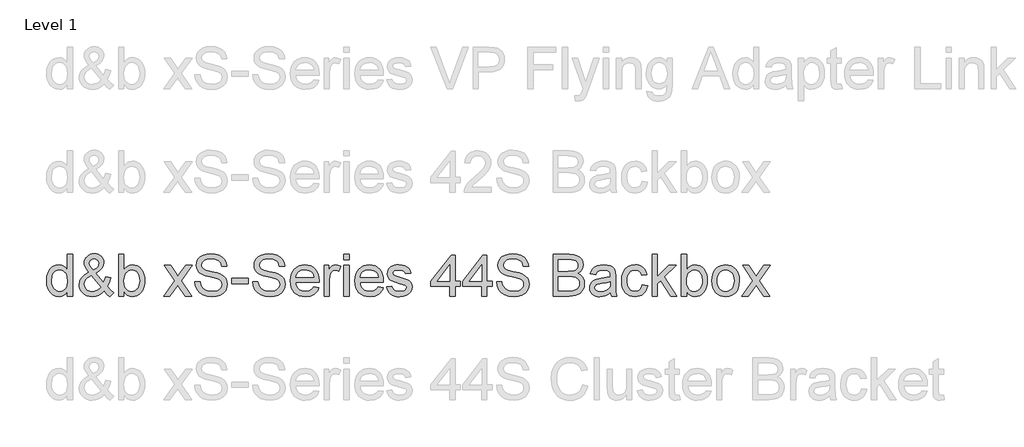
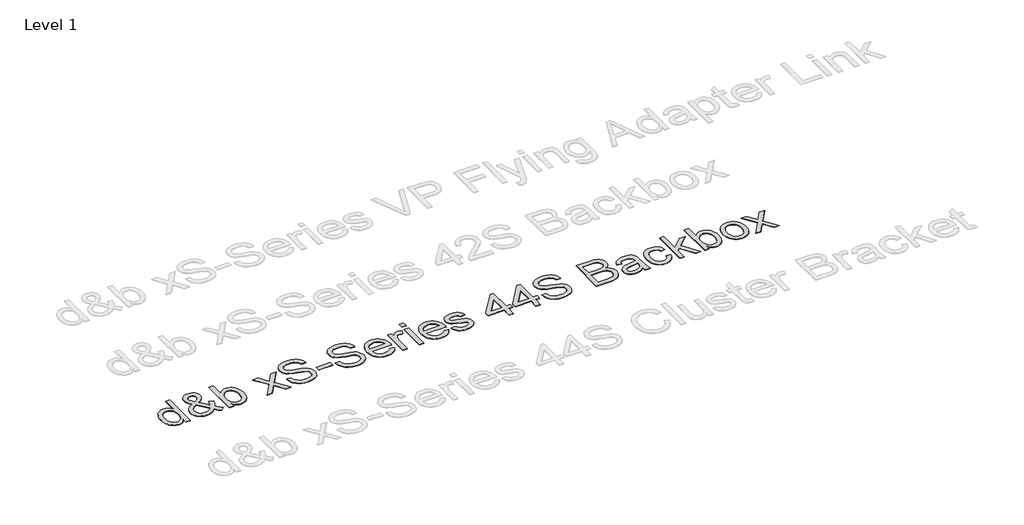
# One storey, part 8 of 55: 1 proxy.
"""IFC4 building model written with IfcOpenShell, lengths in millimetres."""

from ifc_helpers import new_model, si_unit, origin, origin_with_axes, place, context, project, spatial, polyline, outline, extrude, element, save

model = new_model("IFC4")

# Units and contexts
model_context = context("Model", 3, world=origin())
ifc_project = project(units=[si_unit("LENGTHUNIT", "METRE", prefix="MILLI")], contexts=[model_context])

# Site, building, storey
site = spatial("IfcSite", under=ifc_project)
building = spatial("IfcBuilding", under=site)
storey = spatial("IfcBuildingStorey", under=building, Name="Level 1", Elevation=0.0)

# Proxy
placement = place(None, origin())
element("IfcBuildingElementProxy", 1, Name="400mm Arial", ObjectType="400mm Arial", at=placement, inside=storey, context=model_context, shape_type="SweptSolid", body=[
    extrude(outline(polyline([(-20879.8211974, -31148.6945164), (-20879.8211974, -31101.3113154), (-20894.8491769, -31124.7883181), (-20913.0532043, -31141.5576057), (-20934.4332796, -31151.6191783), (-20958.9894028, -31154.9730358), (-20991.4611202, -31150.1169935), (-21021.1859854, -31135.5488665), (-21046.3491139, -31112.2864616), (-21065.1356211, -31081.3475858), (-21076.8342686, -31043.9830379), (-21080.7338177, -31001.4436165), (-21077.1408369, -30959.4314926), (-21066.3618945, -30921.4905962), (-21048.4092531, -30889.7791682), (-21023.2951755, -30866.4554497), (-20992.9203855, -30852.1080519), (-20959.1856065, -30847.325586), (-20934.6110892, -30850.7468885), (-20912.8815261, -30861.0107962), (-20894.4629008, -30876.7438829), (-20879.8211974, -30896.5727224), (-20879.8211974, -30746.8692758), (-20829.5930424, -30746.8692758), (-20829.5930424, -31148.6945164), (-20879.8211974, -31148.6945164)]), holes=[polyline([(-21030.5056627, -31001.2474128), (-21029.089317, -31025.6042665), (-21024.8402799, -31046.6808392), (-21017.7585515, -31064.4771307), (-21007.8441318, -31078.9931411), (-20983.1469871, -31098.3069458), (-20969.2717046, -31103.135397), (-20954.3786151, -31104.7448807), (-20939.415015, -31103.2089734), (-20925.6225058, -31098.6012514), (-20901.5507606, -31080.1703635), (-20892.0440767, -31066.2613584), (-20885.2535882, -31049.1088603), (-20879.8211974, -31005.0733855), (-20885.3516901, -30956.9298951), (-20892.2648059, -30938.3947739), (-20901.9431681, -30923.5507354), (-20913.6448812, -30912.1770504), (-20926.6280499, -30904.0529896), (-20940.8926743, -30899.1785532), (-20956.4387543, -30897.5537411), (-20971.6261493, -30899.1141738), (-20985.5014319, -30903.7954722), (-20998.064602, -30911.5976362), (-21009.3156597, -30922.5206658), (-21018.586286, -30936.8036843), (-21025.2081619, -30954.6858149), (-21030.5056627, -31001.2474128)])]), origin_with_axes(), (0.0, 0.0, 1.0), 5.0),
    extrude(outline(polyline([(-20523.809528, -31099.0549725), (-20549.3405384, -31123.5191252), (-20577.0788409, -31140.99352), (-20607.0734862, -31151.4781569), (-20639.3735254, -31154.9730358), (-20668.6814577, -31152.3855991), (-20694.8010793, -31144.623289), (-20717.7323904, -31131.6861055), (-20737.4753908, -31113.5740486), (-20750.308341, -31096.2038871), (-20759.4747341, -31077.8404442), (-20764.9745699, -31058.4837198), (-20766.8078485, -31038.1337141), (-20760.9094739, -31002.9396699), (-20743.2143499, -30971.3263438), (-20713.796053, -30943.3182613), (-20672.7281596, -30918.9399477), (-20694.6416638, -30890.5885086), (-20707.7995765, -30868.1231814), (-20714.3846642, -30848.9442668), (-20716.5796934, -30830.4520651), (-20714.8506481, -30812.8979626), (-20709.6635119, -30796.5333452), (-20701.018285, -30781.3582129), (-20688.9149674, -30767.3725657), (-20674.1935562, -30755.6555241), (-20657.6940487, -30747.2862088), (-20639.4164449, -30742.2646195), (-20619.3607448, -30740.5907564), (-20600.212487, -30742.1910431), (-20582.8913764, -30746.9919032), (-20567.397413, -30754.9933366), (-20553.7305969, -30766.1953433), (-20542.5715097, -30779.6414302), (-20534.6007332, -30794.3751041), (-20529.8182672, -30810.396365), (-20528.2241119, -30827.7052129), (-20532.9452642, -30855.68877), (-20547.108721, -30881.563137), (-20570.7144823, -30905.3283139), (-20603.7625482, -30926.9843007), (-20531.069066, -31017.5323224), (-20518.6837055, -30991.6579554), (-20509.3885538, -30961.9085647), (-20459.1603987, -30972.7978718), (-20474.6114425, -31019.3226815), (-20494.6732739, -31055.4977443), (-20466.1256311, -31088.8033276), (-20434.0463211, -31116.3209009), (-20471.7174374, -31154.9730358), (-20497.3465498, -31131.52669), (-20523.809528, -31099.0549725)]), holes=[polyline([(-20557.4584678, -31062.8553842), (-20647.1235727, -30950.9211558), (-20681.3733865, -30972.7733463), (-20702.305872, -30993.0068561), (-20713.0112381, -31012.3329235), (-20716.5796934, -31031.4627873), (-20711.6991256, -31055.1543878), (-20697.0574222, -31079.7289051), (-20686.2784798, -31090.6733944), (-20673.4639236, -31098.4908868), (-20658.6137537, -31103.1813823), (-20641.7279702, -31104.7448807), (-20619.0051256, -31101.8263502), (-20595.5710425, -31093.0707588), (-20574.1480476, -31079.6798541), (-20557.4584678, -31062.8553842)]), polyline([(-20629.1709314, -30895.2973981), (-20602.9041569, -30878.6323438), (-20587.8700461, -30864.1500559), (-20580.8067117, -30850.0601755), (-20578.452267, -30834.5723435), (-20581.5547385, -30817.0243723), (-20590.862153, -30803.0325938), (-20604.829406, -30793.8723321), (-20621.9113933, -30790.8189115), (-20639.3612626, -30793.8478066), (-20653.6473468, -30802.9344919), (-20663.1754905, -30816.3867102), (-20666.3515384, -30832.5122043), (-20662.0350563, -30850.9063041), (-20648.9875082, -30871.360543), (-20629.1709314, -30895.2973981)])]), origin_with_axes(), (0.0, 0.0, 1.0), 5.0),
    extrude(outline(polyline([(-20333.590011, -31148.6945164), (-20383.8181661, -31148.6945164), (-20383.8181661, -30746.8692758), (-20333.590011, -30746.8692758), (-20333.590011, -30895.8860093), (-20317.0721094, -30874.6408241), (-20298.4204923, -30859.4656918), (-20277.6351595, -30850.3606124), (-20254.7161112, -30847.325586), (-20228.8417442, -30850.0601755), (-20204.3898543, -30858.263944), (-20182.758393, -30871.4218567), (-20165.3453119, -30889.0188788), (-20151.6968898, -30910.883332), (-20141.3594058, -30936.8435381), (-20134.8478945, -30965.8203766), (-20132.6773907, -30996.734727), (-20134.9245365, -31032.4070178), (-20141.6659741, -31063.7873519), (-20152.9017034, -31090.8757295), (-20168.6317244, -31113.6721505), (-20187.5132678, -31131.7412878), (-20208.2035643, -31144.6478145), (-20230.702614, -31152.3917305), (-20255.0104168, -31154.9730358), (-20278.6836232, -31151.6437038), (-20299.671291, -31141.6557076), (-20317.9734203, -31125.0090473), (-20333.590011, -31101.7037229), (-20333.590011, -31148.6945164)]), holes=[polyline([(-20333.590011, -30999.0891717), (-20330.1564457, -31040.9786682), (-20319.8557498, -31069.3301073), (-20307.6849872, -31084.8240707), (-20293.5399244, -31095.8911874), (-20277.4205617, -31102.5314574), (-20259.3268989, -31104.7448807), (-20244.3050508, -31103.1139372), (-20230.3377977, -31098.2211067), (-20217.4251396, -31090.0663891), (-20205.5670767, -31078.6497845), (-20195.6526569, -31064.0019498), (-20188.5709285, -31046.1535416), (-20184.3218914, -31025.1045601), (-20182.9055458, -31000.8550053), (-20188.3379366, -30954.8942814), (-20195.1284251, -30937.1010555), (-20204.6351089, -30922.7659205), (-20216.0670419, -30911.735592), (-20228.6332778, -30903.8567859), (-20242.3338164, -30899.1295023), (-20257.1686579, -30897.5537411), (-20272.190506, -30899.1846846), (-20286.1577591, -30904.0775151), (-20299.0704171, -30912.2322327), (-20310.9284801, -30923.6488372), (-20320.8428999, -30938.1495192), (-20327.9246283, -30955.556469), (-20332.1736653, -30975.8696865), (-20333.590011, -30999.0891717)])]), origin_with_axes(), (0.0, 0.0, 1.0), 5.0),
    extrude(outline(polyline([(-19950.6003285, -31148.6945164), (-19843.2768878, -31000.2663941), (-19944.3218092, -30853.6041054), (-19884.0872638, -30853.6041054), (-19835.3306367, -30924.3355503), (-19812.4729021, -30957.5920827), (-19792.6563253, -30930.3197641), (-19737.1306695, -30853.6041054), (-19676.6999204, -30853.6041054), (-19782.8461387, -31000.364496), (-19680.623995, -31148.6945164), (-19740.9566422, -31148.6945164), (-19802.5646137, -31059.4218189), (-19813.7482263, -31043.0388074), (-19890.1695795, -31148.6945164), (-19950.6003285, -31148.6945164)])), origin_with_axes(), (0.0, 0.0, 1.0), 5.0),
    extrude(outline(polyline([(-19649.2313981, -31010.56709), (-19599.003243, -31010.56709), (-19593.2397584, -31038.4402825), (-19582.8164352, -31060.844296), (-19566.556051, -31078.6252591), (-19543.2813835, -31092.6293004), (-19514.8318425, -31101.7159856), (-19483.0468381, -31104.7448807), (-19455.063281, -31102.4517496), (-19430.5623402, -31095.5723563), (-19410.7089752, -31084.6830493), (-19396.6681457, -31070.3601769), (-19388.3172244, -31053.9158517), (-19385.533584, -31036.6621862), (-19387.6182486, -31019.849979), (-19393.8722425, -31005.3186402), (-19406.5764341, -30992.9210169), (-19428.0116917, -30982.5099565), (-19501.1466323, -30963.3310418), (-19549.1552327, -30950.639113), (-19579.8733793, -30938.5603208), (-19604.8770922, -30921.6622745), (-19622.5967416, -30901.1835101), (-19633.1549549, -30877.565486), (-19636.6743593, -30851.2496606), (-19632.3210891, -30821.8313637), (-19619.2612782, -30794.3996296), (-19597.8382834, -30771.1494875), (-19568.395461, -30754.2759667), (-19533.054264, -30744.012059), (-19493.9361452, -30740.5907564), (-19451.5561394, -30744.1714745), (-19414.4736342, -30754.9136288), (-19384.013005, -30772.59649), (-19361.4986269, -30796.999329), (-19347.249331, -30826.6015669), (-19341.5839483, -30859.8826247), (-19391.8121033, -30859.8826247), (-19401.0336787, -30829.9125049), (-19409.3968627, -30818.0544419), (-19420.2616443, -30808.2810436), (-19450.3053406, -30795.1844445), (-19491.9741079, -30790.8189115), (-19534.6238939, -30795.1353936), (-19550.9271976, -30800.5309962), (-19563.8827752, -30808.0848398), (-19580.805347, -30827.1411272), (-19586.4462043, -30849.7781326), (-19582.4485532, -30869.0796746), (-19570.4556002, -30884.6042948), (-19542.1041611, -30898.4857088), (-19488.4424407, -30912.6614283), (-19433.0639377, -30926.1259093), (-19399.5621507, -30937.8736077), (-19370.9286687, -30956.0960292), (-19350.9526764, -30978.5858819), (-19339.2172408, -31005.097911), (-19335.3054289, -31035.3868619), (-19339.805852, -31066.3502632), (-19353.3071212, -31095.4742545), (-19375.2574136, -31120.5392811), (-19405.1049061, -31139.3257883), (-19440.9979261, -31151.0612239), (-19481.0848008, -31154.9730358), (-19530.2951491, -31150.7546556), (-19570.7989567, -31138.099515), (-19603.0622077, -31116.958563), (-19627.5508858, -31087.2827487), (-19643.2717098, -31051.1322113), (-19649.2313981, -31010.56709)])), origin_with_axes(), (0.0, 0.0, 1.0), 5.0),
    extrude(outline(polyline([(-19291.3557932, -31029.4026481), (-19291.3557932, -30979.174493), (-19134.3928086, -30979.174493), (-19134.3928086, -31029.4026481), (-19291.3557932, -31029.4026481)])), origin_with_axes(), (0.0, 0.0, 1.0), 5.0),
    extrude(outline(polyline([(-19090.4431729, -31010.56709), (-19040.2150178, -31010.56709), (-19034.4515332, -31038.4402825), (-19024.02821, -31060.844296), (-19007.7678258, -31078.6252591), (-18984.4931583, -31092.6293004), (-18956.0436173, -31101.7159856), (-18924.2586129, -31104.7448807), (-18896.2750558, -31102.4517496), (-18871.774115, -31095.5723563), (-18851.9207499, -31084.6830493), (-18837.8799205, -31070.3601769), (-18829.5289992, -31053.9158517), (-18826.7453587, -31036.6621862), (-18828.8300234, -31019.849979), (-18835.0840173, -31005.3186402), (-18847.7882089, -30992.9210169), (-18869.2234665, -30982.5099565), (-18942.3584071, -30963.3310418), (-18990.3670075, -30950.639113), (-19021.0851541, -30938.5603208), (-19046.088867, -30921.6622745), (-19063.8085164, -30901.1835101), (-19074.3667297, -30877.565486), (-19077.8861341, -30851.2496606), (-19073.5328638, -30821.8313637), (-19060.473053, -30794.3996296), (-19039.0500582, -30771.1494875), (-19009.6072358, -30754.2759667), (-18974.2660388, -30744.012059), (-18935.14792, -30740.5907564), (-18892.7679141, -30744.1714745), (-18855.685409, -30754.9136288), (-18825.2247798, -30772.59649), (-18802.7104017, -30796.999329), (-18788.4611058, -30826.6015669), (-18782.7957231, -30859.8826247), (-18833.0238781, -30859.8826247), (-18842.2454535, -30829.9125049), (-18850.6086375, -30818.0544419), (-18861.4734191, -30808.2810436), (-18891.5171154, -30795.1844445), (-18933.1858827, -30790.8189115), (-18975.8356687, -30795.1353936), (-18992.1389724, -30800.5309962), (-19005.09455, -30808.0848398), (-19022.0171218, -30827.1411272), (-19027.657979, -30849.7781326), (-19023.660328, -30869.0796746), (-19011.667375, -30884.6042948), (-18983.3159359, -30898.4857088), (-18929.6542155, -30912.6614283), (-18874.2757125, -30926.1259093), (-18840.7739255, -30937.8736077), (-18812.1404435, -30956.0960292), (-18792.1644512, -30978.5858819), (-18780.4290156, -31005.097911), (-18776.5172037, -31035.3868619), (-18781.0176267, -31066.3502632), (-18794.518896, -31095.4742545), (-18816.4691883, -31120.5392811), (-18846.3166809, -31139.3257883), (-18882.2097009, -31151.0612239), (-18922.2965756, -31154.9730358), (-18971.5069238, -31150.7546556), (-19012.0107315, -31138.099515), (-19044.2739825, -31116.958563), (-19068.7626606, -31087.2827487), (-19084.4834846, -31051.1322113), (-19090.4431729, -31010.56709)])), origin_with_axes(), (0.0, 0.0, 1.0), 5.0),
    extrude(outline(polyline([(-18500.850962, -31060.795245), (-18451.6038255, -31067.0737644), (-18459.1546035, -31086.7983707), (-18469.3480004, -31104.180795), (-18482.1840164, -31119.2210372), (-18497.6626513, -31131.9190974), (-18515.6244897, -31142.0051955), (-18535.9101161, -31149.2095512), (-18583.4527326, -31154.9730358), (-18614.618469, -31152.4867667), (-18642.3874282, -31145.0279592), (-18666.7596104, -31132.5966135), (-18687.7350155, -31115.1927294), (-18704.602405, -31093.300685), (-18716.6505403, -31067.4048582), (-18723.8794215, -31037.5052491), (-18726.2890486, -31003.6018575), (-18723.8548961, -30968.5488348), (-18716.5524385, -30937.6528785), (-18704.3816758, -30910.9139888), (-18687.342608, -30888.3321657), (-18666.4223852, -30870.3917871), (-18642.6081574, -30857.5772309), (-18615.8999246, -30849.8884972), (-18586.2976867, -30847.325586), (-18557.6488763, -30849.8823658), (-18531.7407868, -30857.5527054), (-18508.5734182, -30870.3366048), (-18488.1467704, -30888.2340638), (-18471.472519, -30910.766836), (-18459.5623394, -30937.4566748), (-18452.4162316, -30968.3035801), (-18450.0341957, -31003.3075519), (-18450.3285013, -31016.8456094), (-18676.0608935, -31016.8456094), (-18673.1515601, -31036.8890467), (-18667.3666157, -31054.4431493), (-18658.7060604, -31069.507917), (-18647.1698942, -31082.0833498), (-18633.3957791, -31091.9977696), (-18618.0213774, -31099.079498), (-18582.4717139, -31104.7448807), (-18555.7389556, -31102.1206558), (-18533.2245775, -31094.2479811), (-18514.9285796, -31080.6363473), (-18500.850962, -31060.795245)]), holes=[polyline([(-18676.0608935, -30966.6174543), (-18500.2623508, -30966.6174543), (-18507.0559049, -30940.0808997), (-18520.3732332, -30921.0981887), (-18534.0707061, -30910.7974929), (-18549.65664, -30903.439853), (-18567.1310348, -30899.025269), (-18586.4938904, -30897.5537411), (-18620.3512967, -30902.2503679), (-18648.3471166, -30916.3402483), (-18667.8080741, -30938.3028034), (-18676.0608935, -30966.6174543)])]), origin_with_axes(), (0.0, 0.0, 1.0), 5.0),
    extrude(outline(polyline([(-18399.8060406, -31148.6945164), (-18399.8060406, -30853.6041054), (-18355.8564049, -30853.6041054), (-18355.8564049, -30897.2594355), (-18339.6205462, -30871.9491542), (-18324.6600117, -30857.0376707), (-18309.6504263, -30849.7536071), (-18293.2674148, -30847.325586), (-18268.2514391, -30851.2006097), (-18242.843056, -30862.8256807), (-18259.618475, -30907.8544369), (-18277.2768108, -30900.128915), (-18294.9351465, -30897.5537411), (-18309.9324692, -30900.0308132), (-18323.3356365, -30907.4620295), (-18334.1636299, -30919.2833042), (-18341.4354307, -30934.9305518), (-18347.5422718, -30962.9876853), (-18349.5778855, -30993.5954673), (-18349.5778855, -31148.6945164), (-18399.8060406, -31148.6945164)])), origin_with_axes(), (0.0, 0.0, 1.0), 5.0),
    extrude(outline(polyline([(-18211.4504591, -30797.0974309), (-18211.4504591, -30746.8692758), (-18161.222304, -30746.8692758), (-18161.222304, -30797.0974309), (-18211.4504591, -30797.0974309)])), origin_with_axes(), (0.0, 0.0, 1.0), 5.0),
    extrude(outline(polyline([(-18211.4504591, -31148.6945164), (-18211.4504591, -30853.6041054), (-18161.222304, -30853.6041054), (-18161.222304, -31148.6945164), (-18211.4504591, -31148.6945164)])), origin_with_axes(), (0.0, 0.0, 1.0), 5.0),
    extrude(outline(polyline([(-17879.2775429, -31060.795245), (-17830.0304065, -31067.0737644), (-17837.5811844, -31086.7983707), (-17847.7745814, -31104.180795), (-17860.6105973, -31119.2210372), (-17876.0892323, -31131.9190974), (-17894.0510707, -31142.0051955), (-17914.336697, -31149.2095512), (-17961.8793136, -31154.9730358), (-17993.0450499, -31152.4867667), (-18020.8140092, -31145.0279592), (-18045.1861914, -31132.5966135), (-18066.1615965, -31115.1927294), (-18083.0289859, -31093.300685), (-18095.0771213, -31067.4048582), (-18102.3060025, -31037.5052491), (-18104.7156295, -31003.6018575), (-18102.281477, -30968.5488348), (-18094.9790194, -30937.6528785), (-18082.8082567, -30910.9139888), (-18065.769189, -30888.3321657), (-18044.8489662, -30870.3917871), (-18021.0347384, -30857.5772309), (-17994.3265055, -30849.8884972), (-17964.7242676, -30847.325586), (-17936.0754573, -30849.8823658), (-17910.1673678, -30857.5527054), (-17886.9999991, -30870.3366048), (-17866.5733513, -30888.2340638), (-17849.8990999, -30910.766836), (-17837.9889203, -30937.4566748), (-17830.8428126, -30968.3035801), (-17828.4607766, -31003.3075519), (-17828.7550822, -31016.8456094), (-18054.4874745, -31016.8456094), (-18051.578141, -31036.8890467), (-18045.7931967, -31054.4431493), (-18037.1326413, -31069.507917), (-18025.5964751, -31082.0833498), (-18011.8223601, -31091.9977696), (-17996.4479584, -31099.079498), (-17960.8982949, -31104.7448807), (-17934.1655366, -31102.1206558), (-17911.6511585, -31094.2479811), (-17893.3551606, -31080.6363473), (-17879.2775429, -31060.795245)]), holes=[polyline([(-18054.4874745, -30966.6174543), (-17878.6889317, -30966.6174543), (-17885.4824859, -30940.0808997), (-17898.7998141, -30921.0981887), (-17912.4972871, -30910.7974929), (-17928.0832209, -30903.439853), (-17945.5576157, -30899.025269), (-17964.9204714, -30897.5537411), (-17998.7778777, -30902.2503679), (-18026.7736975, -30916.3402483), (-18046.234655, -30938.3028034), (-18054.4874745, -30966.6174543)])]), origin_with_axes(), (0.0, 0.0, 1.0), 5.0),
    extrude(outline(polyline([(-17797.0681797, -31060.795245), (-17746.8400246, -31054.5167257), (-17738.918299, -31076.0010342), (-17723.5898825, -31091.7954345), (-17700.7566734, -31101.5075192), (-17670.3205696, -31104.7448807), (-17640.2523479, -31101.7772993), (-17619.1113959, -31092.874555), (-17606.6034081, -31079.9741597), (-17602.4340788, -31065.0136253), (-17606.6279335, -31052.2113318), (-17619.2094978, -31042.4501962), (-17670.9091808, -31028.1273239), (-17746.545719, -31003.5528066), (-17765.6878455, -30991.2042343), (-17779.5569967, -30974.858011), (-17787.9814944, -30955.556469), (-17790.7896603, -30934.3419406), (-17788.5333174, -30914.880983), (-17781.7642887, -30896.9160789), (-17771.0957109, -30881.1584668), (-17757.1407205, -30868.3193852), (-17725.2085633, -30853.4569526), (-17704.3251287, -30848.8584276), (-17681.9946916, -30847.325586), (-17649.302245, -30849.7903953), (-17620.8772295, -30857.1848234), (-17598.0194949, -30868.785369), (-17582.0288908, -30883.8685308), (-17571.4338893, -30903.5502176), (-17564.7629625, -30928.946338), (-17614.9911176, -30935.2248574), (-17621.3309506, -30919.4181943), (-17633.8757267, -30907.5110804), (-17652.748073, -30900.0430759), (-17678.070617, -30897.5537411), (-17706.9125654, -30899.9327113), (-17726.140531, -30907.069622), (-17736.9562617, -30917.3703179), (-17740.5615053, -30929.2406436), (-17734.5772915, -30943.8578215), (-17715.8398352, -30954.9433323), (-17672.5769125, -30965.6364356), (-17598.8533607, -30989.2789852), (-17579.3801404, -31000.5852252), (-17564.6158097, -31016.0607944), (-17555.3083952, -31035.7547439), (-17552.2059237, -31059.7161245), (-17555.8479555, -31084.4868455), (-17566.7740507, -31107.7860386), (-17584.5672766, -31127.7865564), (-17608.8107, -31142.6612517), (-17638.0941069, -31151.8950898), (-17671.0072827, -31154.9730358), (-17698.040478, -31153.4892451), (-17721.6523707, -31149.037873), (-17741.8429609, -31141.6189194), (-17758.6122485, -31131.2323844), (-17772.3097214, -31117.9273189), (-17783.2848676, -31101.7527738), (-17791.5376871, -31082.7087492), (-17797.0681797, -31060.795245)])), origin_with_axes(), (0.0, 0.0, 1.0), 5.0),
    extrude(outline(polyline([(-17188.0517994, -31148.6945164), (-17188.0517994, -31054.5167257), (-17370.1288616, -31054.5167257), (-17370.1288616, -31004.2885706), (-17175.4947607, -30753.1477952), (-17137.8236444, -30753.1477952), (-17137.8236444, -31004.2885706), (-17087.5954893, -31004.2885706), (-17087.5954893, -31054.5167257), (-17137.8236444, -31054.5167257), (-17137.8236444, -31148.6945164), (-17188.0517994, -31148.6945164)]), holes=[polyline([(-17188.0517994, -31004.2885706), (-17188.0517994, -30849.0914196), (-17308.3246864, -31004.2885706), (-17188.0517994, -31004.2885706)])]), origin_with_axes(), (0.0, 0.0, 1.0), 5.0),
    extrude(outline(polyline([(-16880.4043496, -31148.6945164), (-16880.4043496, -31054.5167257), (-17062.4814117, -31054.5167257), (-17062.4814117, -31004.2885706), (-16867.8473108, -30753.1477952), (-16830.1761945, -30753.1477952), (-16830.1761945, -31004.2885706), (-16779.9480394, -31004.2885706), (-16779.9480394, -31054.5167257), (-16830.1761945, -31054.5167257), (-16830.1761945, -31148.6945164), (-16880.4043496, -31148.6945164)]), holes=[polyline([(-16880.4043496, -31004.2885706), (-16880.4043496, -30849.0914196), (-17000.6772366, -31004.2885706), (-16880.4043496, -31004.2885706)])]), origin_with_axes(), (0.0, 0.0, 1.0), 5.0),
    extrude(outline(polyline([(-16735.9984038, -31010.56709), (-16685.7702487, -31010.56709), (-16680.0067641, -31038.4402825), (-16669.5834409, -31060.844296), (-16653.3230567, -31078.6252591), (-16630.0483891, -31092.6293004), (-16601.5988482, -31101.7159856), (-16569.8138438, -31104.7448807), (-16541.8302867, -31102.4517496), (-16517.3293458, -31095.5723563), (-16497.4759808, -31084.6830493), (-16483.4351513, -31070.3601769), (-16475.08423, -31053.9158517), (-16472.3005896, -31036.6621862), (-16474.3852543, -31019.849979), (-16480.6392482, -31005.3186402), (-16493.3434397, -30992.9210169), (-16514.7786973, -30982.5099565), (-16587.913638, -30963.3310418), (-16635.9222383, -30950.639113), (-16666.6403849, -30938.5603208), (-16691.6440979, -30921.6622745), (-16709.3637473, -30901.1835101), (-16719.9219606, -30877.565486), (-16723.441365, -30851.2496606), (-16719.0880947, -30821.8313637), (-16706.0282839, -30794.3996296), (-16684.605289, -30771.1494875), (-16655.1624667, -30754.2759667), (-16619.8212697, -30744.012059), (-16580.7031509, -30740.5907564), (-16538.323145, -30744.1714745), (-16501.2406399, -30754.9136288), (-16470.7800107, -30772.59649), (-16448.2656326, -30796.999329), (-16434.0163367, -30826.6015669), (-16428.3509539, -30859.8826247), (-16478.579109, -30859.8826247), (-16487.8006843, -30829.9125049), (-16496.1638684, -30818.0544419), (-16507.02865, -30808.2810436), (-16537.0723462, -30795.1844445), (-16578.7411136, -30790.8189115), (-16621.3908995, -30795.1353936), (-16637.6942033, -30800.5309962), (-16650.6497809, -30808.0848398), (-16667.5723527, -30827.1411272), (-16673.2132099, -30849.7781326), (-16669.2155589, -30869.0796746), (-16657.2226059, -30884.6042948), (-16628.8711668, -30898.4857088), (-16575.2094464, -30912.6614283), (-16519.8309434, -30926.1259093), (-16486.3291564, -30937.8736077), (-16457.6956744, -30956.0960292), (-16437.7196821, -30978.5858819), (-16425.9842464, -31005.097911), (-16422.0724345, -31035.3868619), (-16426.5728576, -31066.3502632), (-16440.0741268, -31095.4742545), (-16462.0244192, -31120.5392811), (-16491.8719118, -31139.3257883), (-16527.7649318, -31151.0612239), (-16567.8518065, -31154.9730358), (-16617.0621547, -31150.7546556), (-16657.5659624, -31138.099515), (-16689.8292134, -31116.958563), (-16714.3178915, -31087.2827487), (-16730.0387154, -31051.1322113), (-16735.9984038, -31010.56709)])), origin_with_axes(), (0.0, 0.0, 1.0), 5.0),
    extrude(outline(polyline([(-16189.7672173, -31148.6945164), (-16189.7672173, -30746.8692758), (-16036.4340017, -30746.8692758), (-15994.2624623, -30749.8245945), (-15961.3370238, -30758.6905506), (-15936.1003189, -30773.6878733), (-15916.9949806, -30795.0372917), (-15904.9652394, -30820.1513693), (-15900.9553256, -30846.4426692), (-15904.3275773, -30870.6370417), (-15914.4443321, -30893.3844118), (-15931.3791666, -30913.2868277), (-15955.2056572, -30928.946338), (-15926.7438535, -30943.8087706), (-15905.7132661, -30966.4212506), (-15892.7270317, -30995.2877244), (-15888.3982869, -31028.9121388), (-15891.3536056, -31056.9324841), (-15900.2195616, -31082.9172157), (-15913.4510507, -31105.0146609), (-15929.5029685, -31121.3731469), (-15949.1601297, -31133.2189472), (-15973.2073495, -31141.7783349), (-16002.4294426, -31146.965471), (-16037.6112241, -31148.6945164), (-16189.7672173, -31148.6945164)]), holes=[polyline([(-16139.5390622, -31098.4663614), (-16036.5321036, -31098.4663614), (-15999.2533948, -31096.504324), (-15967.713645, -31085.5659661), (-15956.1376249, -31076.1359242), (-15946.8179477, -31063.2477917), (-15940.6743184, -31047.4779168), (-15938.6264419, -31029.4026481), (-15941.0299376, -31008.4088489), (-15948.2404248, -30990.3581057), (-15960.8342517, -30976.2436998), (-15979.387767, -30967.0589127), (-16005.6668042, -30962.0189293), (-16041.4371969, -30960.3389349), (-16139.5390622, -30960.3389349), (-16139.5390622, -31098.4663614)]), polyline([(-16139.5390622, -30910.1107798), (-16047.8138181, -30910.1107798), (-15994.2501996, -30905.7942977), (-15975.5004806, -30898.3508187), (-15962.0237368, -30887.2039943), (-15953.8935447, -30872.5255026), (-15951.1834807, -30854.4870222), (-15953.7096037, -30836.9758392), (-15961.2879728, -30821.7209991), (-15973.5752315, -30809.8138852), (-15990.2280231, -30802.3458807), (-16015.7835591, -30798.4095434), (-16054.7790506, -30797.0974309), (-16139.5390622, -30797.0974309), (-16139.5390622, -30910.1107798)])]), origin_with_axes(), (0.0, 0.0, 1.0), 5.0),
    extrude(outline(polyline([(-15637.2575115, -31111.0234001), (-15661.2556803, -31131.6002664), (-15685.9650877, -31145.0647474), (-15711.9498193, -31152.4959637), (-15739.7739608, -31154.9730358), (-15762.1381204, -31153.4831137), (-15781.7492965, -31149.0133475), (-15798.6074889, -31141.5637371), (-15812.7126977, -31131.1342825), (-15823.8503251, -31118.3871714), (-15831.8057733, -31103.9845913), (-15836.5790422, -31087.9265422), (-15838.1701318, -31070.2130241), (-15835.7666361, -31049.3909032), (-15828.556149, -31030.4817686), (-15817.43385, -31014.2949609), (-15803.2949187, -31001.6398202), (-15786.6789152, -30992.0748883), (-15768.1253999, -30985.1587068), (-15724.6662736, -30977.6048632), (-15673.309947, -30969.6586121), (-15637.5518171, -30960.3389349), (-15637.2575115, -30949.1553222), (-15640.7156023, -30926.739046), (-15651.0898745, -30912.0728171), (-15674.2909657, -30901.1835101), (-15706.6155303, -30897.5537411), (-15736.5365993, -30899.9694995), (-15757.4322966, -30907.2167748), (-15771.6815925, -30920.6199422), (-15781.6634573, -30941.5033767), (-15831.8916124, -30935.2248574), (-15823.1728091, -30907.7563351), (-15810.1620492, -30886.1739247), (-15791.6453221, -30869.6682858), (-15766.4086173, -30857.4300781), (-15735.5433179, -30849.851709), (-15700.1408072, -30847.325586), (-15666.1852991, -30849.5574034), (-15639.2685997, -30856.2528557), (-15618.9737763, -30866.3205597), (-15604.8838959, -30878.669132), (-15595.5396932, -30893.9362348), (-15589.4819031, -30912.7595302), (-15587.0293564, -30956.7091659), (-15587.0293564, -31019.2000541), (-15584.4787079, -31106.4616634), (-15574.4723177, -31148.6945164), (-15624.7004727, -31148.6945164), (-15632.7448257, -31131.2323844), (-15637.2575115, -31111.0234001)]), holes=[polyline([(-15637.2575115, -31010.56709), (-15671.0045532, -31018.930274), (-15718.2896523, -31025.9690828), (-15761.503524, -31034.1115377), (-15772.7484503, -31039.6788185), (-15781.0748461, -31047.3552895), (-15786.2251941, -31056.5523394), (-15787.9419767, -31066.681357), (-15784.2018431, -31081.617366), (-15772.9814423, -31093.8555737), (-15754.5260288, -31102.022554), (-15729.0808575, -31104.7448807), (-15702.1028445, -31101.7405111), (-15678.2640912, -31092.7274022), (-15658.9380237, -31079.4468622), (-15645.4980682, -31063.6401991), (-15639.5383799, -31047.3552895), (-15637.5518171, -31024.7918605), (-15637.2575115, -31010.56709)])]), origin_with_axes(), (0.0, 0.0, 1.0), 5.0),
    extrude(outline(polyline([(-15329.6100617, -31041.9596869), (-15279.3819066, -31048.2382063), (-15284.8449542, -31071.9390038), (-15293.3859479, -31092.9113432), (-15305.0048876, -31111.1552245), (-15319.7017733, -31126.6706476), (-15336.857337, -31139.0529425), (-15355.8523107, -31147.8974388), (-15376.6866943, -31153.2041366), (-15399.3604879, -31154.9730358), (-15427.5310517, -31152.5051608), (-15452.7892164, -31145.1015356), (-15475.1349819, -31132.7621604), (-15494.5683483, -31115.487035), (-15510.2983693, -31093.601122), (-15521.5340985, -31067.4293837), (-15528.2755361, -31036.9718202), (-15530.522682, -31002.2284314), (-15526.6844465, -30957.530769), (-15515.16974, -30918.7927949), (-15495.7946216, -30887.5105626), (-15468.3751502, -30865.1801255), (-15435.572339, -30851.7892209), (-15400.047201, -30847.325586), (-15377.7627491, -30848.8584276), (-15357.6058815, -30853.4569526), (-15339.576598, -30861.1211608), (-15323.6748988, -30871.8510523), (-15310.1705639, -30885.4013725), (-15299.3333735, -30901.5268666), (-15291.1633275, -30920.2275347), (-15285.660426, -30941.5033767), (-15335.888581, -30947.7818961), (-15344.9997918, -30925.8683919), (-15359.1877741, -30910.1598308), (-15377.667713, -30900.7052635), (-15399.6547935, -30897.5537411), (-15416.7214524, -30899.1049768), (-15432.1142483, -30903.758684), (-15445.833181, -30911.5148628), (-15457.8782506, -30922.373513), (-15467.6853715, -30936.5860207), (-15474.6904578, -30954.403772), (-15478.8935096, -30975.8267669), (-15480.2945269, -31000.8550053), (-15474.8130852, -31047.9316379), (-15467.961283, -31065.8689509), (-15458.36876, -31080.0722616), (-15446.5628136, -31090.8665325), (-15433.0707414, -31098.576726), (-15417.8925435, -31103.202842), (-15401.0282197, -31104.7448807), (-15375.0189626, -31100.8943825), (-15353.6940696, -31089.3428879), (-15338.1817122, -31069.7960912), (-15329.6100617, -31041.9596869)])), origin_with_axes(), (0.0, 0.0, 1.0), 5.0),
    extrude(outline(polyline([(-15235.4322709, -31148.6945164), (-15235.4322709, -30746.8692758), (-15185.2041158, -30746.8692758), (-15185.2041158, -30962.7914815), (-15072.5831744, -30853.6041054), (-15003.1270537, -30853.6041054), (-15117.2195231, -30964.1649076), (-14996.8485343, -31148.6945164), (-15055.5134498, -31148.6945164), (-15153.2229077, -30999.0891717), (-15185.2041158, -31030.187463), (-15185.2041158, -31148.6945164), (-15235.4322709, -31148.6945164)])), origin_with_axes(), (0.0, 0.0, 1.0), 5.0),
    extrude(outline(polyline([(-14902.6707435, -31148.6945164), (-14952.8988986, -31148.6945164), (-14952.8988986, -30746.8692758), (-14902.6707435, -30746.8692758), (-14902.6707435, -30895.8860093), (-14886.1528419, -30874.6408241), (-14867.5012248, -30859.4656918), (-14846.7158921, -30850.3606124), (-14823.7968438, -30847.325586), (-14797.9224768, -30850.0601755), (-14773.4705868, -30858.263944), (-14751.8391255, -30871.4218567), (-14734.4260444, -30889.0188788), (-14720.7776224, -30910.883332), (-14710.4401383, -30936.8435381), (-14703.928627, -30965.8203766), (-14701.7581232, -30996.734727), (-14704.0052691, -31032.4070178), (-14710.7467066, -31063.7873519), (-14721.9824359, -31090.8757295), (-14737.7124569, -31113.6721505), (-14756.5940003, -31131.7412878), (-14777.2842968, -31144.6478145), (-14799.7833465, -31152.3917305), (-14824.0911494, -31154.9730358), (-14847.7643557, -31151.6437038), (-14868.7520236, -31141.6557076), (-14887.0541528, -31125.0090473), (-14902.6707435, -31101.7037229), (-14902.6707435, -31148.6945164)]), holes=[polyline([(-14902.6707435, -30999.0891717), (-14899.2371782, -31040.9786682), (-14888.9364824, -31069.3301073), (-14876.7657197, -31084.8240707), (-14862.620657, -31095.8911874), (-14846.5012942, -31102.5314574), (-14828.4076314, -31104.7448807), (-14813.3857833, -31103.1139372), (-14799.4185302, -31098.2211067), (-14786.5058722, -31090.0663891), (-14774.6478092, -31078.6497845), (-14764.7333894, -31064.0019498), (-14757.651661, -31046.1535416), (-14753.402624, -31025.1045601), (-14751.9862783, -31000.8550053), (-14757.4186691, -30954.8942814), (-14764.2091576, -30937.1010555), (-14773.7158415, -30922.7659205), (-14785.1477745, -30911.735592), (-14797.7140103, -30903.8567859), (-14811.4145489, -30899.1295023), (-14826.2493904, -30897.5537411), (-14841.2712385, -30899.1846846), (-14855.2384916, -30904.0775151), (-14868.1511496, -30912.2322327), (-14880.0092126, -30923.6488372), (-14889.9236324, -30938.1495192), (-14897.0053608, -30955.556469), (-14901.2543978, -30975.8696865), (-14902.6707435, -30999.0891717)])]), origin_with_axes(), (0.0, 0.0, 1.0), 5.0),
    extrude(outline(polyline([(-14657.8084875, -31001.1493109), (-14655.0922921, -30962.932503), (-14646.9437059, -30930.000933), (-14633.362729, -30902.3546011), (-14614.3493612, -30879.9935072), (-14595.2072347, -30865.7012916), (-14574.0785454, -30855.4925663), (-14550.9632934, -30849.3673311), (-14525.8614786, -30847.325586), (-14498.1507673, -30849.8118551), (-14473.0949378, -30857.2706626), (-14450.6939899, -30869.7020083), (-14430.9479238, -30887.1058924), (-14414.8316268, -30908.8937036), (-14403.319986, -30934.4768306), (-14396.4130015, -30963.8552736), (-14394.1106734, -30997.0290325), (-14398.1819008, -31047.7722224), (-14410.395583, -31086.3998319), (-14430.3961009, -31115.3276195), (-14457.827835, -31136.9713435), (-14490.409917, -31150.4726127), (-14525.8614786, -31154.9730358), (-14553.9768601, -31152.4959637), (-14579.2656816, -31145.0647474), (-14601.7279431, -31132.6793869), (-14621.3636445, -31115.3398822), (-14637.3082634, -31093.3405389), (-14648.6972768, -31066.9756626), (-14655.5306849, -31036.2452532), (-14657.8084875, -31001.1493109)]), holes=[polyline([(-14607.5803325, -31001.051209), (-14606.1271986, -31025.4141942), (-14601.7677969, -31046.5091609), (-14594.5021275, -31064.3361092), (-14584.3301904, -31078.8950392), (-14571.9570926, -31090.2043449), (-14558.0879414, -31098.2824204), (-14542.7227367, -31103.1292656), (-14525.8614786, -31104.7448807), (-14509.0860596, -31103.1200686), (-14493.7821686, -31098.2456322), (-14479.9498056, -31090.1215714), (-14467.5889706, -31078.7478864), (-14457.4170334, -31064.0448693), (-14450.151364, -31045.9328124), (-14445.7919624, -31024.4117157), (-14444.3388285, -30999.4815792), (-14445.8011594, -30975.8911462), (-14450.1881522, -30955.3480025), (-14457.4998068, -30937.8521479), (-14467.7361234, -30923.4035826), (-14480.1429437, -30912.0942769), (-14493.9661096, -30904.0162014), (-14509.2056213, -30899.1693561), (-14525.8614786, -30897.5537411), (-14542.7227367, -30899.1632248), (-14558.0879414, -30903.991676), (-14571.9570926, -30912.0390946), (-14584.3301904, -30923.3054807), (-14594.5021275, -30937.8214911), (-14601.7677969, -30955.6177826), (-14606.1271986, -30976.6943553), (-14607.5803325, -31001.051209)])]), origin_with_axes(), (0.0, 0.0, 1.0), 5.0),
    extrude(outline(polyline([(-14368.9965959, -31148.6945164), (-14261.6731551, -31000.2663941), (-14362.7180765, -30853.6041054), (-14302.4835311, -30853.6041054), (-14253.726904, -30924.3355503), (-14230.8691694, -30957.5920827), (-14211.0525926, -30930.3197641), (-14155.5269368, -30853.6041054), (-14095.0961877, -30853.6041054), (-14201.2424061, -31000.364496), (-14099.0202623, -31148.6945164), (-14159.3529095, -31148.6945164), (-14220.960881, -31059.4218189), (-14232.1444937, -31043.0388074), (-14308.5658468, -31148.6945164), (-14368.9965959, -31148.6945164)])), origin_with_axes(), (0.0, 0.0, 1.0), 5.0),
])

save(model, "model.ifc")
